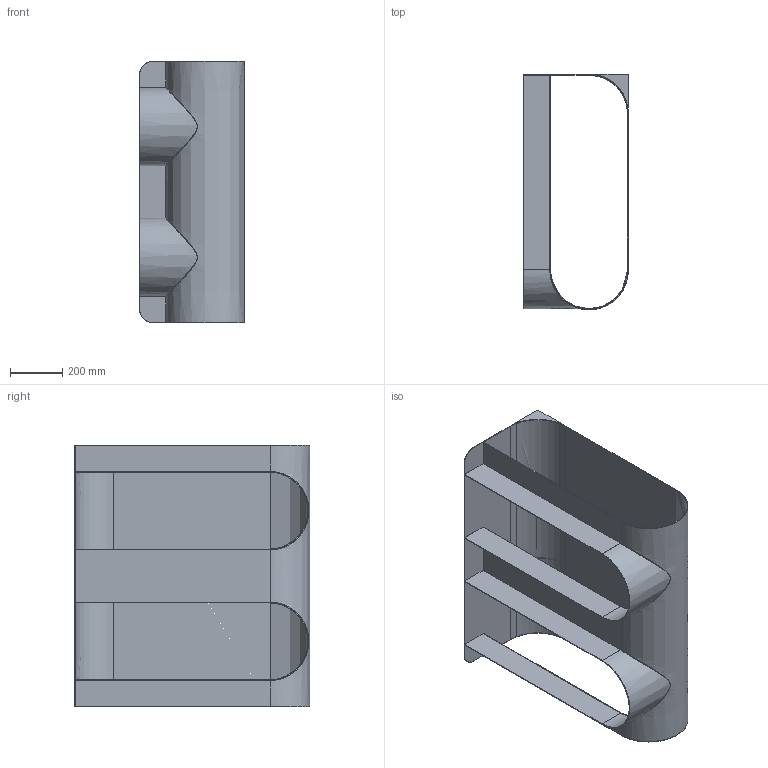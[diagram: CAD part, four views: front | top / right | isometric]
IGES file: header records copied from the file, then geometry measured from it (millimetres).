
Start section: SolidWorks IGES file using analytic representation for surfaces
Global section: file name: \\192.168.0.53\Reserch Development\SITO WEB\2024\File 2D 3D\Prodotti\3D\DeCastelli-3D-Vault.igs; native system: SolidWorks 2025; preprocessor: SolidWorks 2025; author: lauraa; date: 260403.155937; units: millimetre
Bounding box: 400 x 900 x 1000 mm (x, y, z)
Surface area: 4739323 mm2 (no closed solid volume)
Topology: 0 solids, 0 shells, 88 faces, 1646 edges, 1646 vertices
Faces by surface type: bspline 68, revolution 20
